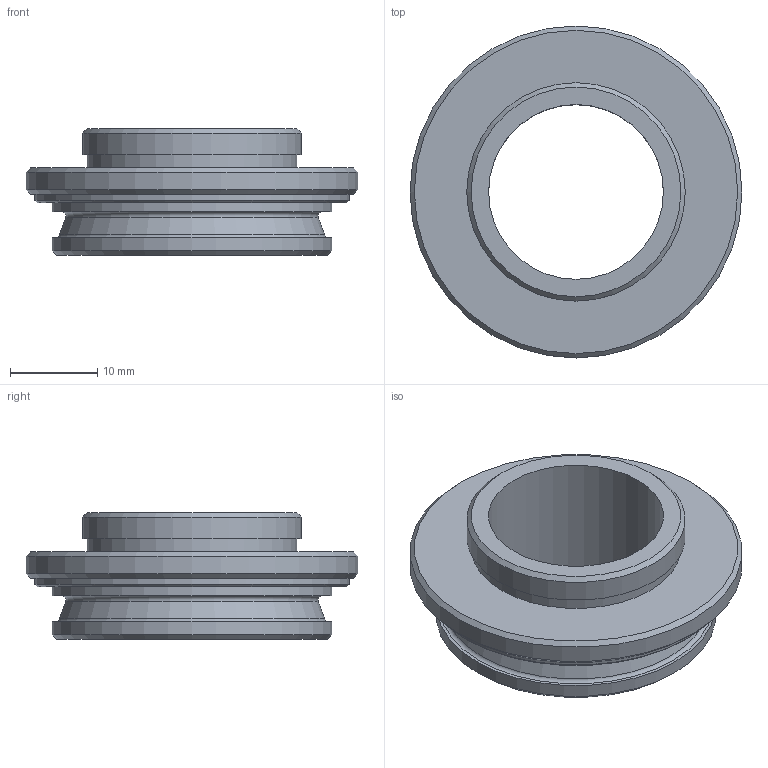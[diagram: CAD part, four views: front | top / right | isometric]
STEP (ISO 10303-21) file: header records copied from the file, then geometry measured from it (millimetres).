
FILE_DESCRIPTION((''),'2;1');
FILE_NAME('Z:\1図面ﾃﾞｰﾀ\1_motorized stages\01_国内製品\10_Piezo\SFS-OBL\SFS-OBL-1\OBL-ADP-M25.0A.stp','2008-01-28T11:58:41',('kawashima'),(''),'Autodesk Inventor 11','Autodesk Inventor 11','');
FILE_SCHEMA(('AUTOMOTIVE_DESIGN { 1 0 10303 214 1 1 1 1 }'));
Length unit declared in the file: millimetre
Products named in the file (1): SFS-OBL-1-11
Bounding box: 38 x 38 x 14.5 mm (x, y, z)
Volume: 6435.4 mm3; surface area: 4091.6 mm2
Topology: 1 solids, 1 shells, 23 faces, 41 edges, 26 vertices
Faces by surface type: plane 8, cylinder 7, cone 6, torus 2
Full cylindrical faces by diameter (mm): 20 x1, 24 x1, 25 x1, 32 x2, 36 x1, 38 x1
Entity records: 491 total; most frequent: DIRECTION 94, CARTESIAN_POINT 70, AXIS2_PLACEMENT_3D 47, ORIENTED_EDGE 46, EDGE_LOOP 46, VERTEX_POINT 23, CIRCLE 23, EDGE_CURVE 23
